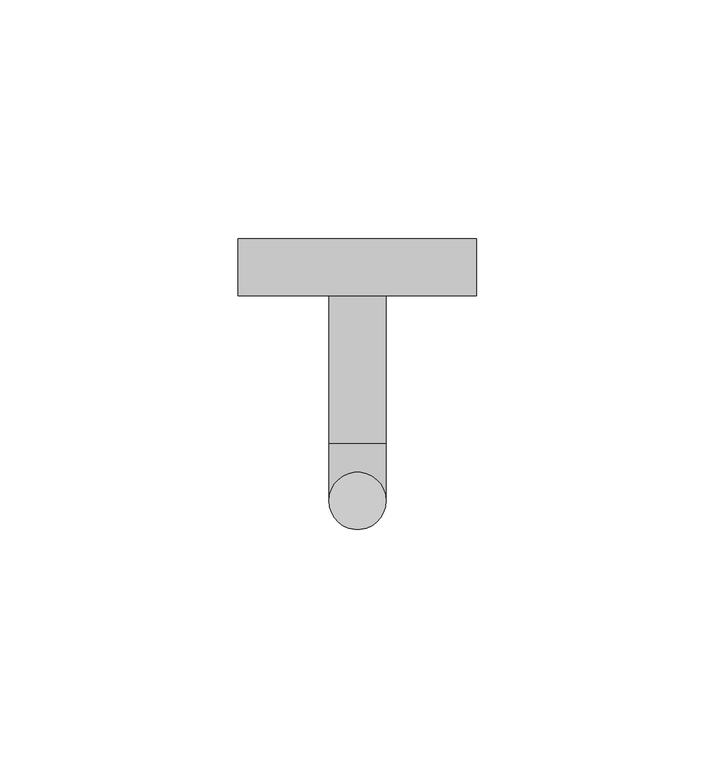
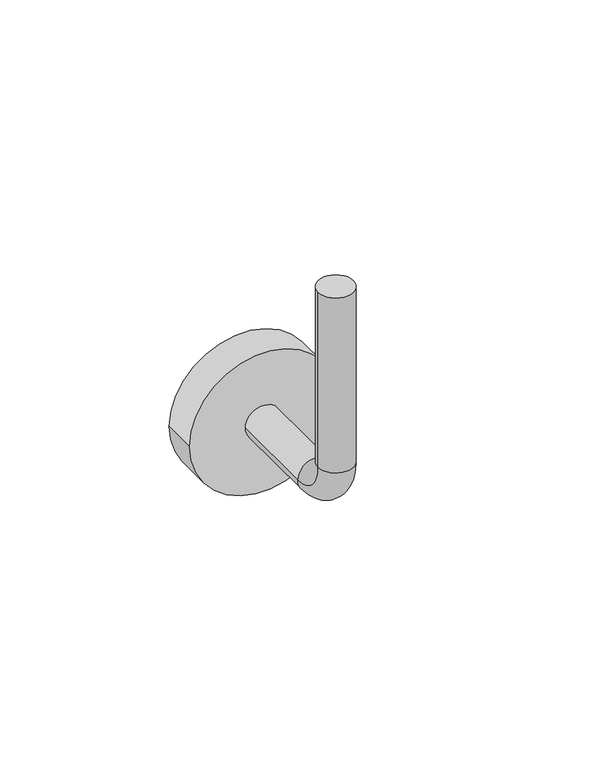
"""IFC4 building model written with IfcOpenShell, lengths in millimetres: proxy geometry, 支座 - 金属 - 圆形 : 支座 - 金属 - 圆形."""

from ifc_helpers import new_model, si_unit, point, frame, frame_2d, origin, origin_with_axes, place, context, project, spatial, circle_curve, ellipse_curve, trimmed, segment, composite_curve, outline, extrude, source, transform, mapped, element, save
from ifc_brep_helpers import plane_surface, cylinder_surface, revolved_surface, advanced_brep


def building_element_proxy_cf76aa7a(model_context):
    return source(origin(), model_context, "Body", "SolidModel", [
        advanced_brep(
        [(-6.0, 0.0, 0.0), (6.0, 0.0, 0.0), (-6.0, 0.0, -63.0), (6.0, 0.0, -63.0), (6.0, 12.0, -75.0), (-6.0, 12.0, -75.0), (-6.0, 43.0, -75.0), (6.0, 43.0, -75.0)],
        [
            (0, 1, circle_curve(origin_with_axes(), 6.0)),
            (1, 0, circle_curve(origin_with_axes(), 6.0)),
            (0, 2),
            (2, 3, circle_curve(frame((0.0, 0.0, -63.0), z_axis=(0.0, 0.0, 1.0), x_axis=(1.0, 0.0, 0.0)), 6.0)),
            (3, 1),
            (3, 2, circle_curve(frame((0.0, 0.0, -63.0), z_axis=(0.0, 0.0, 1.0), x_axis=(1.0, 0.0, 0.0)), 6.0)),
            (4, 3, circle_curve(frame((6.0, 12.0, -63.0), z_axis=(-1.0, 0.0, 0.0), x_axis=(0.0, -1.0, 0.0)), 12.0)),
            (2, 5, circle_curve(frame((-6.0, 12.0, -63.0), z_axis=(1.0, 0.0, 0.0), x_axis=(0.0, -1.0, 0.0)), 12.0)),
            (5, 4, circle_curve(frame((0.0, 12.0, -75.0), z_axis=(0.0, -1.0, 0.0), x_axis=(1.0, 0.0, 0.0)), 6.0)),
            (4, 5, circle_curve(frame((0.0, 12.0, -75.0), z_axis=(0.0, -1.0, 0.0), x_axis=(1.0, 0.0, 0.0)), 6.0)),
            (6, 7, circle_curve(frame((0.0, 43.0, -75.0), z_axis=(0.0, 1.0, 0.0), x_axis=(1.0, 0.0, 0.0)), 6.0)),
            (7, 6, circle_curve(frame((0.0, 43.0, -75.0), z_axis=(0.0, 1.0, 0.0), x_axis=(1.0, 0.0, 0.0)), 6.0)),
            (5, 6),
            (7, 4),
        ],
        [
            plane_surface(origin_with_axes()),
            cylinder_surface(origin_with_axes(), 6.0),
            revolved_surface(trimmed(ellipse_curve(frame((0.0, 0.0, -63.0), z_axis=(0.0, 0.0, 1.0), x_axis=(1.0, 0.0, 0.0)), 6.0, 6.0), [point((-6.0, 0.0, -63.0))], [point((6.0, 0.0, -63.0))], True, "CARTESIAN"), (0.0, 12.0, -63.0), (1.0, 0.0, 0.0)),
            revolved_surface(trimmed(ellipse_curve(frame((0.0, 0.0, -63.0), z_axis=(0.0, 0.0, 1.0), x_axis=(1.0, 0.0, 0.0)), 6.0, 6.0), [point((6.0, 0.0, -63.0))], [point((-6.0, 0.0, -63.0))], True, "CARTESIAN"), (0.0, 12.0, -63.0), (1.0, 0.0, 0.0)),
            plane_surface(frame((0.0, 43.0, -75.0), z_axis=(0.0, 1.0, 0.0), x_axis=(1.0, 0.0, 0.0))),
            cylinder_surface(frame((0.0, 12.0, -75.0), z_axis=(0.0, -1.0, 0.0), x_axis=(1.0, 0.0, 0.0)), 6.0),
        ],
        [
            (0, [[1, 2]]),
            (1, [[-1, 3, 4, 5]]),
            (1, [[-2, -5, 6, -3]]),
            (2, [[7, -4, 8, 9]]),
            (3, [[-8, -6, -7, 10]]),
            (4, [[11, 12]]),
            (5, [[-9, 13, -12, 14]]),
            (5, [[-10, -14, -11, -13]]),
        ],
    ),
        extrude(outline(composite_curve([segment(trimmed(circle_curve(frame_2d((-75.0, 0.0)), 25.0), [point((-75.0, -25.0))], [point((-75.0, 25.0))], False, "CARTESIAN"), True, "CONTINUOUS"), segment(trimmed(circle_curve(frame_2d((-75.0, 0.0)), 25.0), [point((-75.0, 25.0))], [point((-75.0, -25.0))], False, "CARTESIAN"), True, "CONTINUOUS")], self_intersect=False)), frame((0.0, 43.0, 0.0), z_axis=(0.0, 1.0, 0.0), x_axis=(0.0, 0.0, 1.0)), (0.0, 0.0, 1.0), 12.0),
    ])


if __name__ == "__main__":
    model = new_model("IFC4")
    model_context = context("Model", 3, world=origin())
    ifc_project = project(units=[si_unit("LENGTHUNIT", "METRE", prefix="MILLI")], contexts=[model_context])
    site = spatial("IfcSite", under=ifc_project)
    building = spatial("IfcBuilding", under=site)
    placement = place(None, origin())
    building_element_proxy_shape = building_element_proxy_cf76aa7a(model_context)
    element("IfcBuildingElementProxy", 1, Name="支座 - 金属 - 圆形 : 支座 - 金属 - 圆形", ObjectType="支座 - 金属 - 圆形 : 支座 - 金属 - 圆形", at=placement, inside=building, context=model_context, shape_type="MappedRepresentation", body=[
        mapped(building_element_proxy_shape, transform((0.0, 0.0, 0.0), x_axis=(1.0, 0.0, 0.0), y_axis=(0.0, 1.0, 0.0), z_axis=(0.0, 0.0, 1.0))),
    ])
    save(model, "model.ifc")
